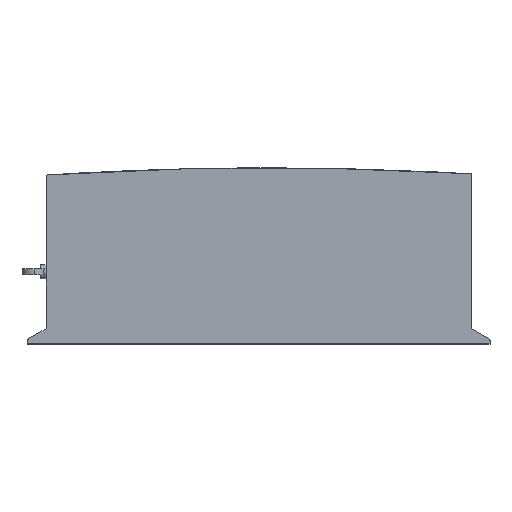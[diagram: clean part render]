
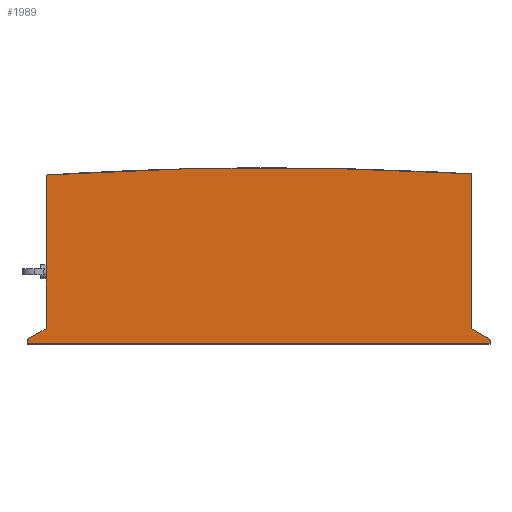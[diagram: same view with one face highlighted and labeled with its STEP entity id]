
A CAD part, top view. The second image highlights one B-rep face of the part: STEP entity #1989.
In plain terms, the highlighted planar face has unit normal (0, 0, 1).
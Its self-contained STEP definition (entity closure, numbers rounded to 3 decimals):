
#120 = VECTOR ( 'NONE', #1206, 1000. ) ;
#203 = LINE ( 'NONE', #6095, #1177 ) ;
#332 = DIRECTION ( 'NONE',  ( -0.868, 0.496, 0. ) ) ;
#401 = DIRECTION ( 'NONE',  ( 0., 0., 1. ) ) ;
#448 = DIRECTION ( 'NONE',  ( 0., -1., 0. ) ) ;
#787 = EDGE_CURVE ( 'NONE', #7364, #8518, #7097, .T. ) ;
#835 = ORIENTED_EDGE ( 'NONE', *, *, #2503, .T. ) ;
#982 = ORIENTED_EDGE ( 'NONE', *, *, #3917, .T. ) ;
#1025 = VERTEX_POINT ( 'NONE', #6512 ) ;
#1130 = VERTEX_POINT ( 'NONE', #4740 ) ;
#1143 = VERTEX_POINT ( 'NONE', #10901 ) ;
#1147 = ORIENTED_EDGE ( 'NONE', *, *, #4159, .T. ) ;
#1177 = VECTOR ( 'NONE', #3450, 1000. ) ;
#1206 = DIRECTION ( 'NONE',  ( -0.868, -0.496, 0. ) ) ;
#1221 = CARTESIAN_POINT ( 'NONE',  ( -249.09, 30.266, 330. ) ) ;
#1588 = CARTESIAN_POINT ( 'NONE',  ( 575.91, -104.804, 330. ) ) ;
#1937 = ORIENTED_EDGE ( 'NONE', *, *, #10868, .T. ) ;
#1968 = EDGE_CURVE ( 'NONE', #9633, #9002, #2581, .T. ) ;
#1989 = ADVANCED_FACE ( 'NONE', ( #9073 ), #5684, .F. ) ;
#2059 = AXIS2_PLACEMENT_3D ( 'NONE', #1588, #10503, #5108 ) ;
#2102 = CARTESIAN_POINT ( 'NONE',  ( 166.478, -6169.535, 330. ) ) ;
#2278 = EDGE_CURVE ( 'NONE', #9002, #11113, #4692, .T. ) ;
#2503 = EDGE_CURVE ( 'NONE', #1025, #9144, #203, .T. ) ;
#2581 = LINE ( 'NONE', #8139, #10729 ) ;
#3032 = CIRCLE ( 'NONE', #6043, 5. ) ;
#3151 = ORIENTED_EDGE ( 'NONE', *, *, #1968, .T. ) ;
#3450 = DIRECTION ( 'NONE',  ( 0., 1., 0. ) ) ;
#3461 = ORIENTED_EDGE ( 'NONE', *, *, #787, .T. ) ;
#3512 = EDGE_LOOP ( 'NONE', ( #1937, #10551, #3461, #9900, #8148, #5504, #3151, #4992, #1147, #3945, #982, #835 ) ) ;
#3533 = LINE ( 'NONE', #6656, #10295 ) ;
#3917 = EDGE_CURVE ( 'NONE', #6745, #1025, #3533, .T. ) ;
#3945 = ORIENTED_EDGE ( 'NONE', *, *, #4677, .T. ) ;
#4115 = CARTESIAN_POINT ( 'NONE',  ( -249.09, 205.261, 330. ) ) ;
#4159 = EDGE_CURVE ( 'NONE', #11113, #1143, #8465, .T. ) ;
#4162 = CARTESIAN_POINT ( 'NONE',  ( -284.09, -110.502, 330. ) ) ;
#4311 = LINE ( 'NONE', #6592, #120 ) ;
#4677 = EDGE_CURVE ( 'NONE', #1143, #6745, #7319, .T. ) ;
#4692 = LINE ( 'NONE', #6375, #5694 ) ;
#4740 = CARTESIAN_POINT ( 'NONE',  ( -249.09, 205.261, 330. ) ) ;
#4791 = CARTESIAN_POINT ( 'NONE',  ( 580.91, -110.502, 330. ) ) ;
#4992 = ORIENTED_EDGE ( 'NONE', *, *, #2278, .T. ) ;
#4993 = VECTOR ( 'NONE', #11238, 1000. ) ;
#5108 = DIRECTION ( 'NONE',  ( 1., 0., 0. ) ) ;
#5268 = VECTOR ( 'NONE', #448, 1000. ) ;
#5290 = EDGE_CURVE ( 'NONE', #10493, #9633, #3032, .T. ) ;
#5418 = AXIS2_PLACEMENT_3D ( 'NONE', #9423, #401, #6805 ) ;
#5504 = ORIENTED_EDGE ( 'NONE', *, *, #5290, .T. ) ;
#5583 = DIRECTION ( 'NONE',  ( 0., 0., 1. ) ) ;
#5684 = PLANE ( 'NONE',  #8582 ) ;
#5694 = VECTOR ( 'NONE', #6420, 1000. ) ;
#5994 = DIRECTION ( 'NONE',  ( 0., -1., 0. ) ) ;
#6043 = AXIS2_PLACEMENT_3D ( 'NONE', #11015, #5583, #7290 ) ;
#6095 = CARTESIAN_POINT ( 'NONE',  ( 545.91, 207.514, 330. ) ) ;
#6106 = CARTESIAN_POINT ( 'NONE',  ( -284.09, -104.804, 330. ) ) ;
#6108 = CARTESIAN_POINT ( 'NONE',  ( -249.09, 205.261, 330. ) ) ;
#6375 = CARTESIAN_POINT ( 'NONE',  ( -284.09, -110.502, 330. ) ) ;
#6420 = DIRECTION ( 'NONE',  ( 1., 0., 0. ) ) ;
#6512 = CARTESIAN_POINT ( 'NONE',  ( 545.91, -81.902, 330. ) ) ;
#6592 = CARTESIAN_POINT ( 'NONE',  ( -281.571, -100.463, 330. ) ) ;
#6656 = CARTESIAN_POINT ( 'NONE',  ( 545.91, -81.902, 330. ) ) ;
#6745 = VERTEX_POINT ( 'NONE', #11294 ) ;
#6805 = DIRECTION ( 'NONE',  ( -1., 0., 0. ) ) ;
#7097 = LINE ( 'NONE', #4115, #5268 ) ;
#7187 = DIRECTION ( 'NONE',  ( 0., 1., 0. ) ) ;
#7263 = EDGE_CURVE ( 'NONE', #8518, #10552, #8800, .T. ) ;
#7290 = DIRECTION ( 'NONE',  ( 1., 0., 0. ) ) ;
#7319 = CIRCLE ( 'NONE', #2059, 5. ) ;
#7364 = VERTEX_POINT ( 'NONE', #1221 ) ;
#7708 = CARTESIAN_POINT ( 'NONE',  ( -281.571, -100.463, 330. ) ) ;
#8022 = VECTOR ( 'NONE', #7187, 1000. ) ;
#8120 = CARTESIAN_POINT ( 'NONE',  ( 580.91, -104.804, 330. ) ) ;
#8139 = CARTESIAN_POINT ( 'NONE',  ( -284.09, -104.804, 330. ) ) ;
#8148 = ORIENTED_EDGE ( 'NONE', *, *, #10835, .T. ) ;
#8162 = CARTESIAN_POINT ( 'NONE',  ( -249.09, 18.529, 330. ) ) ;
#8329 = EDGE_CURVE ( 'NONE', #1130, #7364, #8377, .T. ) ;
#8377 = LINE ( 'NONE', #11351, #4993 ) ;
#8378 = DIRECTION ( 'NONE',  ( 0., 0., -1. ) ) ;
#8465 = LINE ( 'NONE', #8120, #8022 ) ;
#8518 = VERTEX_POINT ( 'NONE', #8162 ) ;
#8582 = AXIS2_PLACEMENT_3D ( 'NONE', #2102, #8378, #11083 ) ;
#8717 = CARTESIAN_POINT ( 'NONE',  ( -249.09, -81.902, 330. ) ) ;
#8800 = LINE ( 'NONE', #6108, #9229 ) ;
#9002 = VERTEX_POINT ( 'NONE', #4162 ) ;
#9073 = FACE_OUTER_BOUND ( 'NONE', #3512, .T. ) ;
#9144 = VERTEX_POINT ( 'NONE', #9713 ) ;
#9229 = VECTOR ( 'NONE', #5994, 1000. ) ;
#9396 = CIRCLE ( 'NONE', #5418, 6388.327 ) ;
#9423 = CARTESIAN_POINT ( 'NONE',  ( 166.478, -6169.535, 330. ) ) ;
#9633 = VERTEX_POINT ( 'NONE', #6106 ) ;
#9713 = CARTESIAN_POINT ( 'NONE',  ( 545.91, 207.514, 330. ) ) ;
#9900 = ORIENTED_EDGE ( 'NONE', *, *, #7263, .T. ) ;
#10295 = VECTOR ( 'NONE', #332, 1000. ) ;
#10493 = VERTEX_POINT ( 'NONE', #7708 ) ;
#10503 = DIRECTION ( 'NONE',  ( 0., 0., 1. ) ) ;
#10551 = ORIENTED_EDGE ( 'NONE', *, *, #8329, .T. ) ;
#10552 = VERTEX_POINT ( 'NONE', #8717 ) ;
#10729 = VECTOR ( 'NONE', #10925, 1000. ) ;
#10835 = EDGE_CURVE ( 'NONE', #10552, #10493, #4311, .T. ) ;
#10868 = EDGE_CURVE ( 'NONE', #9144, #1130, #9396, .T. ) ;
#10901 = CARTESIAN_POINT ( 'NONE',  ( 580.91, -104.804, 330. ) ) ;
#10925 = DIRECTION ( 'NONE',  ( 0., -1., 0. ) ) ;
#11015 = CARTESIAN_POINT ( 'NONE',  ( -279.09, -104.804, 330. ) ) ;
#11083 = DIRECTION ( 'NONE',  ( -1., 0., 0. ) ) ;
#11113 = VERTEX_POINT ( 'NONE', #4791 ) ;
#11238 = DIRECTION ( 'NONE',  ( 0., -1., 0. ) ) ;
#11294 = CARTESIAN_POINT ( 'NONE',  ( 578.391, -100.463, 330. ) ) ;
#11351 = CARTESIAN_POINT ( 'NONE',  ( -249.09, 205.261, 330. ) ) ;
